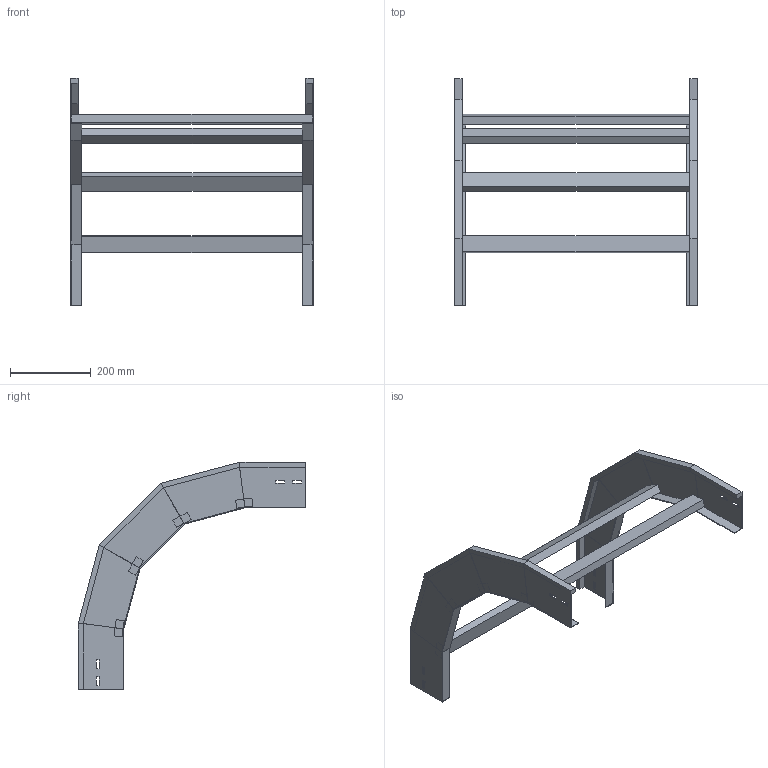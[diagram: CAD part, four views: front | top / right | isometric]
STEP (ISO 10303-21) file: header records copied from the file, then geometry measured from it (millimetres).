
FILE_DESCRIPTION (( 'STEP AP214' ), '1' );
FILE_NAME ('A2_33B3J600.step', '2025-02-21T15:03:44', ( '' ), ( '' ), 'SwSTEP 2.0', 'SolidWorks 2023', '' );
FILE_SCHEMA (( 'AUTOMOTIVE_DESIGN' ));
Length unit declared in the file: millimetre
Products named in the file (3): TRAVERSINO_600; A2_33B3J600; LONGH.DISCESA_90°_H112.5_R300
Assembly tree (6 placements, depth 2):
  A2_33B3J600
    LONGH.DISCESA_90°_H112.5_R300  x2
    TRAVERSINO_600  x4
Bounding box: 600 x 561.94 x 561.94 mm (x, y, z)
Volume: 2749074 mm3; surface area: 823339.5 mm2
Topology: 6 solids, 6 shells, 140 faces, 320 edges, 192 vertices
Faces by surface type: plane 140
Entity records: 1872 total; most frequent: CARTESIAN_POINT 309, ORIENTED_EDGE 296, DIRECTION 294, VECTOR 148, EDGE_CURVE 148, LINE 148, VERTEX_POINT 88, AXIS2_PLACEMENT_3D 73
